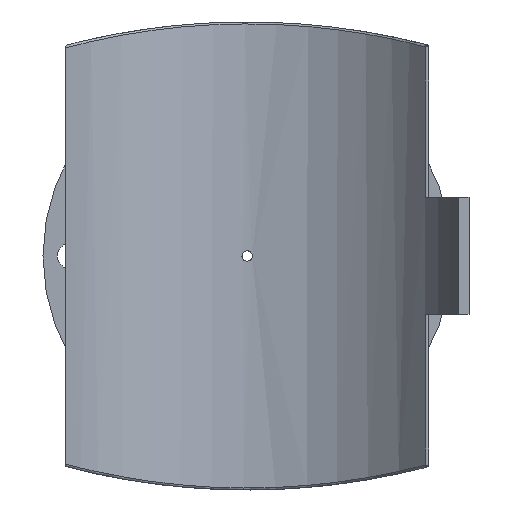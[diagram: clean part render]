
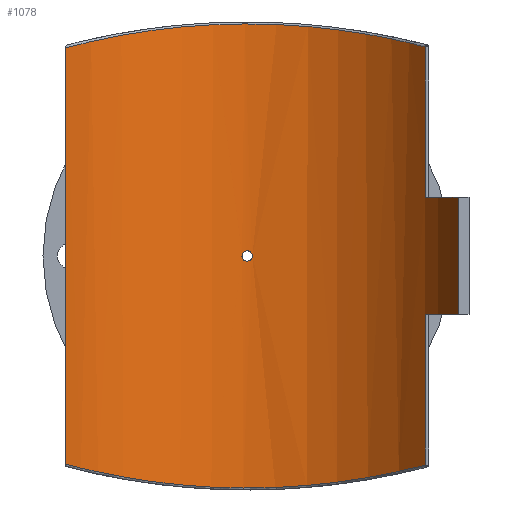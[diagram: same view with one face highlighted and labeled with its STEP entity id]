
A CAD part, front view. The second image highlights one B-rep face of the part: STEP entity #1078.
In plain terms, the highlighted cylindrical face has radius 225 mm (diameter 450 mm), a partial arc.
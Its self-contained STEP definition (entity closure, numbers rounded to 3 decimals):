
#55=FACE_BOUND('',#355,.T.);
#109=B_SPLINE_CURVE_WITH_KNOTS('',3,(#2200,#2201,#2202,#2203,#2204,#2205,
#2206,#2207,#2208,#2209),.UNSPECIFIED.,.F.,.F.,(4,1,1,1,1,1,1,4),(-50.081,
-43.999,-37.918,-31.836,-25.755,
-19.673,-13.592,-7.51),.UNSPECIFIED.);
#110=B_SPLINE_CURVE_WITH_KNOTS('',3,(#2218,#2219,#2220,#2221,#2222,#2223,
#2224,#2225,#2226,#2227),.UNSPECIFIED.,.F.,.F.,(4,1,1,1,1,1,1,4),(-47.161,
-41.079,-34.998,-28.916,-22.835,
-16.753,-10.672,-4.59),.UNSPECIFIED.);
#111=B_SPLINE_CURVE_WITH_KNOTS('',3,(#2230,#2231,#2232,#2233,#2234,#2235,
#2236,#2237,#2238,#2239),.UNSPECIFIED.,.F.,.F.,(4,2,2,2,4),(0.,0.196,
0.392,0.588,0.784),.UNSPECIFIED.);
#112=B_SPLINE_CURVE_WITH_KNOTS('',3,(#2240,#2241,#2242,#2243,#2244,#2245,
#2246,#2247,#2248,#2249,#2250,#2251,#2252,#2253,#2254,#2255,#2256,#2257,
#2258,#2259,#2260,#2261,#2262,#2263,#2264,#2265),.UNSPECIFIED.,.F.,.F.,
(4,2,2,2,2,2,2,2,2,2,2,2,4),(0.784,0.979,1.175,
1.371,1.567,1.763,1.959,2.155,
2.351,2.546,2.742,2.938,3.134),
 .UNSPECIFIED.);
#133=LINE('',#1615,#184);
#144=LINE('',#1899,#195);
#151=LINE('',#2214,#202);
#152=LINE('',#2217,#203);
#184=VECTOR('',#1292,10.);
#195=VECTOR('',#1331,10.);
#202=VECTOR('',#1368,10.);
#203=VECTOR('',#1371,10.);
#244=CYLINDRICAL_SURFACE('',#1175,225.);
#288=FACE_OUTER_BOUND('',#354,.T.);
#354=EDGE_LOOP('',(#839,#840,#841,#842,#843,#844,#845,#846));
#355=EDGE_LOOP('',(#847,#848));
#449=CIRCLE('',#1176,225.);
#450=CIRCLE('',#1177,225.);
#510=VERTEX_POINT('',#1606);
#513=VERTEX_POINT('',#1613);
#533=VERTEX_POINT('',#1892);
#536=VERTEX_POINT('',#1897);
#549=VERTEX_POINT('',#2191);
#550=VERTEX_POINT('',#2211);
#551=VERTEX_POINT('',#2213);
#552=VERTEX_POINT('',#2216);
#553=VERTEX_POINT('',#2228);
#554=VERTEX_POINT('',#2229);
#613=EDGE_CURVE('',#513,#510,#133,.T.);
#643=EDGE_CURVE('',#536,#533,#144,.T.);
#666=EDGE_CURVE('',#549,#536,#109,.T.);
#667=EDGE_CURVE('',#550,#513,#449,.T.);
#668=EDGE_CURVE('',#550,#551,#151,.T.);
#669=EDGE_CURVE('',#533,#551,#450,.T.);
#670=EDGE_CURVE('',#552,#549,#152,.T.);
#671=EDGE_CURVE('',#510,#552,#110,.T.);
#672=EDGE_CURVE('',#553,#554,#111,.T.);
#673=EDGE_CURVE('',#554,#553,#112,.T.);
#839=ORIENTED_EDGE('',*,*,#667,.F.);
#840=ORIENTED_EDGE('',*,*,#668,.T.);
#841=ORIENTED_EDGE('',*,*,#669,.F.);
#842=ORIENTED_EDGE('',*,*,#643,.F.);
#843=ORIENTED_EDGE('',*,*,#666,.F.);
#844=ORIENTED_EDGE('',*,*,#670,.F.);
#845=ORIENTED_EDGE('',*,*,#671,.F.);
#846=ORIENTED_EDGE('',*,*,#613,.F.);
#847=ORIENTED_EDGE('',*,*,#672,.T.);
#848=ORIENTED_EDGE('',*,*,#673,.T.);
#1078=ADVANCED_FACE('',(#288,#55),#244,.F.);
#1175=AXIS2_PLACEMENT_3D('',#2210,#1364,#1365);
#1176=AXIS2_PLACEMENT_3D('',#2212,#1366,#1367);
#1177=AXIS2_PLACEMENT_3D('',#2215,#1369,#1370);
#1292=DIRECTION('',(0.,0.,-1.));
#1331=DIRECTION('',(0.,0.,-1.));
#1364=DIRECTION('center_axis',(0.,0.,1.));
#1365=DIRECTION('ref_axis',(-1.,0.,0.));
#1366=DIRECTION('center_axis',(0.,0.,1.));
#1367=DIRECTION('ref_axis',(-0.944,-0.33,0.));
#1368=DIRECTION('',(0.,0.,1.));
#1369=DIRECTION('center_axis',(0.,0.,-1.));
#1370=DIRECTION('ref_axis',(-0.944,-0.33,0.));
#1371=DIRECTION('',(0.,0.,1.));
#1606=CARTESIAN_POINT('',(178.662,136.766,-209.955));
#1613=CARTESIAN_POINT('',(178.662,136.766,-58.75));
#1615=CARTESIAN_POINT('',(178.662,136.766,0.));
#1892=CARTESIAN_POINT('',(178.662,136.766,58.75));
#1897=CARTESIAN_POINT('',(178.662,136.766,209.955));
#1899=CARTESIAN_POINT('',(178.662,136.766,0.));
#2191=CARTESIAN_POINT('',(-182.25,131.947,209.004));
#2200=CARTESIAN_POINT('Ctrl Pts',(-182.25,131.947,209.004));
#2201=CARTESIAN_POINT('Ctrl Pts',(-170.607,148.029,212.123));
#2202=CARTESIAN_POINT('Ctrl Pts',(-143.098,177.035,218.851));
#2203=CARTESIAN_POINT('Ctrl Pts',(-91.734,208.374,227.744));
#2204=CARTESIAN_POINT('Ctrl Pts',(-33.491,225.233,233.067));
#2205=CARTESIAN_POINT('Ctrl Pts',(27.39,226.061,233.34));
#2206=CARTESIAN_POINT('Ctrl Pts',(86.106,210.765,228.475));
#2207=CARTESIAN_POINT('Ctrl Pts',(138.327,180.79,219.847));
#2208=CARTESIAN_POINT('Ctrl Pts',(166.597,152.526,213.119));
#2209=CARTESIAN_POINT('Ctrl Pts',(178.662,136.766,209.955));
#2210=CARTESIAN_POINT('Origin',(0.,0.,0.));
#2211=CARTESIAN_POINT('',(212.363,74.344,-58.75));
#2212=CARTESIAN_POINT('Origin',(0.,0.,
-58.75));
#2213=CARTESIAN_POINT('',(212.363,74.344,58.75));
#2214=CARTESIAN_POINT('',(212.363,74.344,0.));
#2215=CARTESIAN_POINT('Origin',(0.,0.,
58.75));
#2216=CARTESIAN_POINT('',(-182.25,131.947,-209.004));
#2217=CARTESIAN_POINT('',(-182.25,131.947,0.));
#2218=CARTESIAN_POINT('Ctrl Pts',(178.662,136.766,-209.955));
#2219=CARTESIAN_POINT('Ctrl Pts',(166.597,152.526,-213.119));
#2220=CARTESIAN_POINT('Ctrl Pts',(138.327,180.79,-219.847));
#2221=CARTESIAN_POINT('Ctrl Pts',(86.106,210.765,-228.475));
#2222=CARTESIAN_POINT('Ctrl Pts',(27.39,226.061,-233.34));
#2223=CARTESIAN_POINT('Ctrl Pts',(-33.491,225.233,-233.067));
#2224=CARTESIAN_POINT('Ctrl Pts',(-91.734,208.374,-227.744));
#2225=CARTESIAN_POINT('Ctrl Pts',(-143.098,177.035,-218.851));
#2226=CARTESIAN_POINT('Ctrl Pts',(-170.607,148.029,-212.123));
#2227=CARTESIAN_POINT('Ctrl Pts',(-182.25,131.947,-209.004));
#2228=CARTESIAN_POINT('',(5.2,224.94,0.));
#2229=CARTESIAN_POINT('',(0.,225.,-5.2));
#2230=CARTESIAN_POINT('Ctrl Pts',(5.2,224.94,0.));
#2231=CARTESIAN_POINT('Ctrl Pts',(5.2,224.94,-0.653));
#2232=CARTESIAN_POINT('Ctrl Pts',(5.07,224.943,-1.349));
#2233=CARTESIAN_POINT('Ctrl Pts',(4.539,224.954,-2.631));
#2234=CARTESIAN_POINT('Ctrl Pts',(4.139,224.962,-3.215));
#2235=CARTESIAN_POINT('Ctrl Pts',(3.215,224.977,-4.139));
#2236=CARTESIAN_POINT('Ctrl Pts',(2.631,224.986,-4.539));
#2237=CARTESIAN_POINT('Ctrl Pts',(1.349,224.997,-5.07));
#2238=CARTESIAN_POINT('Ctrl Pts',(0.653,225.,-5.2));
#2239=CARTESIAN_POINT('Ctrl Pts',(0.,225.,-5.2));
#2240=CARTESIAN_POINT('Ctrl Pts',(0.,225.,-5.2));
#2241=CARTESIAN_POINT('Ctrl Pts',(-0.653,225.,-5.2));
#2242=CARTESIAN_POINT('Ctrl Pts',(-1.349,224.997,-5.07));
#2243=CARTESIAN_POINT('Ctrl Pts',(-2.631,224.986,-4.539));
#2244=CARTESIAN_POINT('Ctrl Pts',(-3.215,224.977,-4.139));
#2245=CARTESIAN_POINT('Ctrl Pts',(-4.139,224.962,-3.215));
#2246=CARTESIAN_POINT('Ctrl Pts',(-4.539,224.954,-2.631));
#2247=CARTESIAN_POINT('Ctrl Pts',(-5.07,224.943,-1.349));
#2248=CARTESIAN_POINT('Ctrl Pts',(-5.2,224.94,-0.653));
#2249=CARTESIAN_POINT('Ctrl Pts',(-5.2,224.94,0.653));
#2250=CARTESIAN_POINT('Ctrl Pts',(-5.07,224.943,1.349));
#2251=CARTESIAN_POINT('Ctrl Pts',(-4.539,224.954,2.631));
#2252=CARTESIAN_POINT('Ctrl Pts',(-4.139,224.962,3.215));
#2253=CARTESIAN_POINT('Ctrl Pts',(-3.215,224.977,4.139));
#2254=CARTESIAN_POINT('Ctrl Pts',(-2.631,224.986,4.539));
#2255=CARTESIAN_POINT('Ctrl Pts',(-1.349,224.997,5.07));
#2256=CARTESIAN_POINT('Ctrl Pts',(-0.653,225.,5.2));
#2257=CARTESIAN_POINT('Ctrl Pts',(0.653,225.,5.2));
#2258=CARTESIAN_POINT('Ctrl Pts',(1.349,224.997,5.07));
#2259=CARTESIAN_POINT('Ctrl Pts',(2.631,224.986,4.539));
#2260=CARTESIAN_POINT('Ctrl Pts',(3.215,224.977,4.139));
#2261=CARTESIAN_POINT('Ctrl Pts',(4.139,224.962,3.215));
#2262=CARTESIAN_POINT('Ctrl Pts',(4.539,224.954,2.631));
#2263=CARTESIAN_POINT('Ctrl Pts',(5.07,224.943,1.349));
#2264=CARTESIAN_POINT('Ctrl Pts',(5.2,224.94,0.653));
#2265=CARTESIAN_POINT('Ctrl Pts',(5.2,224.94,0.));
